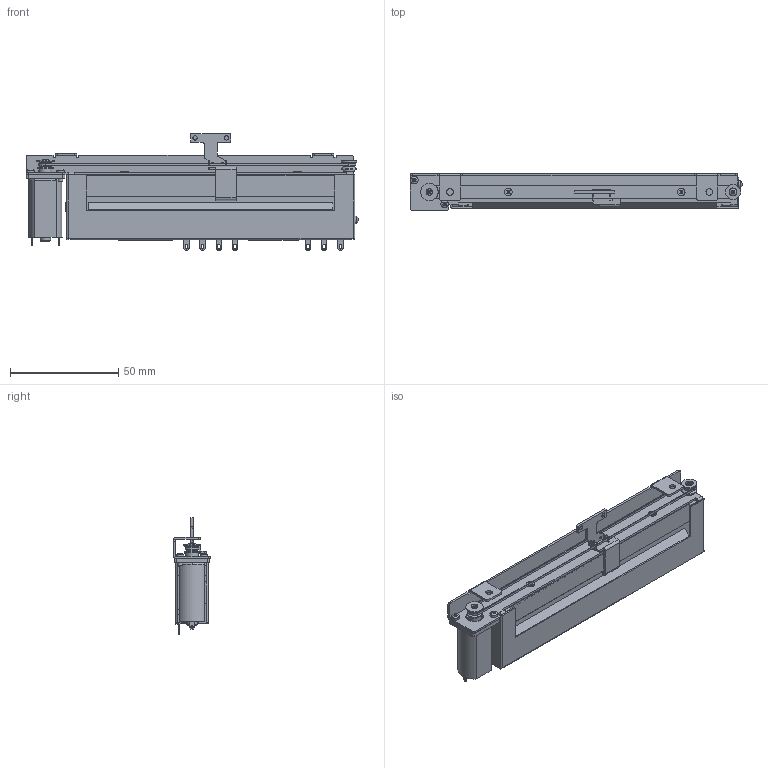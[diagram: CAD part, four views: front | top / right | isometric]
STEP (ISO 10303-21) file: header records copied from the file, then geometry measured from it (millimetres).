
FILE_DESCRIPTION(('FreeCAD Model'),'2;1');
FILE_NAME('Open CASCADE Shape Model','2025-05-15T16:12:11',(''),(''), 'Open CASCADE STEP processor 7.8','FreeCAD','Unknown');
FILE_SCHEMA(('AUTOMOTIVE_DESIGN { 1 0 10303 214 1 1 1 1 }'));
Length unit declared in the file: millimetre
Products named in the file (1): MF-915-M8V-L9-2CIR
Bounding box: 153.67 x 17 x 54.1 mm (x, y, z)
Volume: 57613.6 mm3; surface area: 33077.9 mm2
Topology: 1 solids, 9 shells, 782 faces, 2053 edges, 1310 vertices
Faces by surface type: plane 526, cylinder 171, cone 47, bspline 18, torus 11, sphere 6, revolution 3
Full cylindrical faces by diameter (mm): 1.1 x2, 1.2 x6, 1.25 x2, 1.46 x1, 1.5 x3, 1.6 x2, 2 x17, 2.1 x1, 2.2 x7, 2.4 x2, 2.6 x3, 3 x4, 3.03 x1, 3.5 x6, 3.6 x2, 3.7 x1, 4 x4, 4.7 x2, 4.75 x1, 5 x1, 5.38 x1, 6 x1, 6.5 x1, 7 x3, 8 x1, 8.2 x1
Entity records: 28925 total; most frequent: CARTESIAN_POINT 4465, DIRECTION 4195, ORIENTED_EDGE 4102, EDGE_CURVE 2047, AXIS2_PLACEMENT_3D 1438, LINE 1316, VECTOR 1316, VERTEX_POINT 1310
